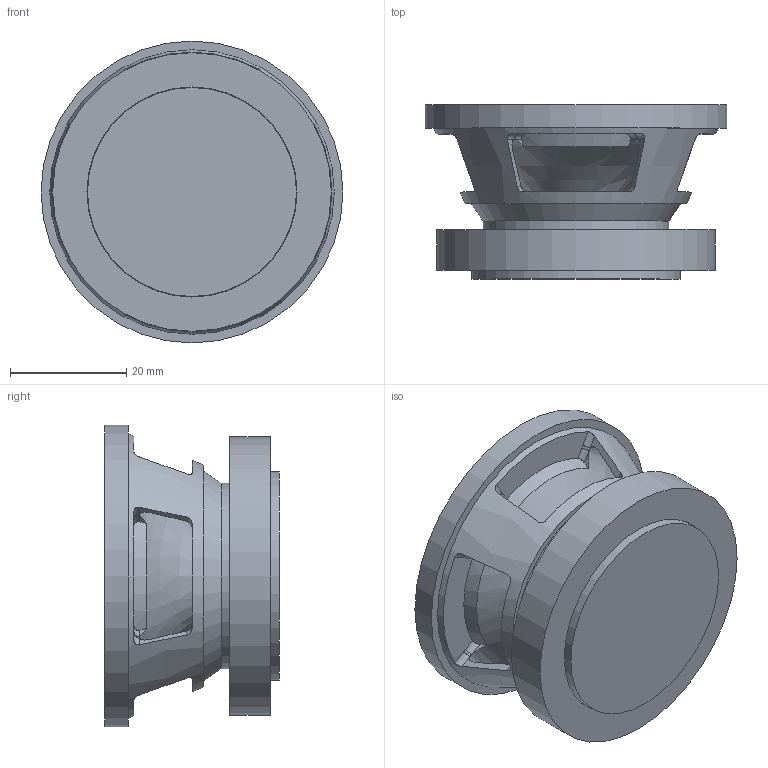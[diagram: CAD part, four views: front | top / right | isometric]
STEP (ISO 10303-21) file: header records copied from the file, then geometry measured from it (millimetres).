
FILE_DESCRIPTION(('FreeCAD Model'),'2;1');
FILE_NAME('Open CASCADE Shape Model','2023-05-06T18:44:57',('Author'),( ''),'Open CASCADE STEP processor 7.5','FreeCAD','Unknown');
FILE_SCHEMA(('AUTOMOTIVE_DESIGN { 1 0 10303 214 1 1 1 1 }'));
Length unit declared in the file: millimetre
Products named in the file (1): dyn speaker
Bounding box: 52 x 30 x 52 mm (x, y, z)
Volume: 27683 mm3; surface area: 15456.6 mm2
Topology: 2 solids, 2 shells, 96 faces, 243 edges, 154 vertices
Faces by surface type: plane 36, cylinder 31, cone 14, bspline 11, torus 4
Full cylindrical faces by diameter (mm): 27.304 x1, 32 x1, 36 x1, 36.2 x1, 48 x1, 49 x1, 52 x1
Entity records: 4215 total; most frequent: CARTESIAN_POINT 1060, ORIENTED_EDGE 420, DIRECTION 392, EDGE_CURVE 210, AXIS2_PLACEMENT_3D 160, VERTEX_POINT 146, EDGE_LOOP 134, FACE_OUTER_BOUND 109
